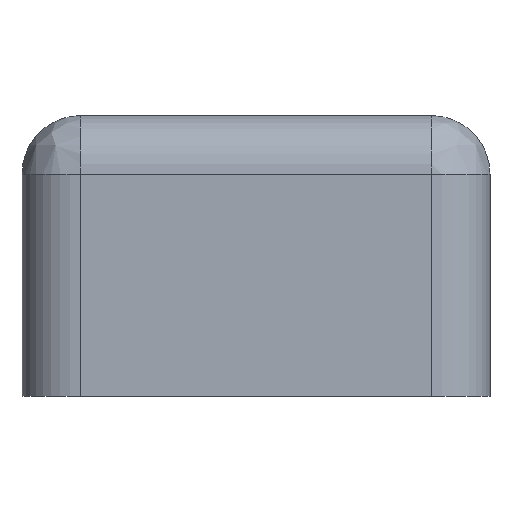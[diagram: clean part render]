
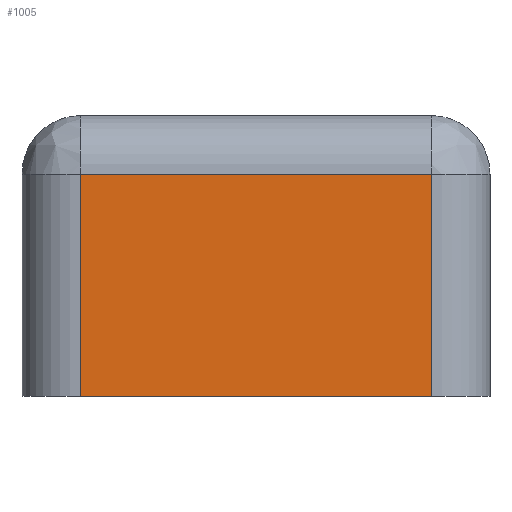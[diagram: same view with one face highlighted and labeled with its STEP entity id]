
A CAD part, front view. The second image highlights one B-rep face of the part: STEP entity #1005.
In plain terms, the highlighted planar face has unit normal (0, -1, 0).
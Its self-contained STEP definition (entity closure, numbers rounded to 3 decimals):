
#1 = ORIENTED_EDGE ( 'NONE', *, *, #65, .T. ) ;
#15 = EDGE_CURVE ( 'NONE', #908, #541, #278, .T. ) ;
#18 = VECTOR ( 'NONE', #538, 1000. ) ;
#52 = LINE ( 'NONE', #451, #1039 ) ;
#59 = EDGE_CURVE ( 'NONE', #984, #685, #514, .T. ) ;
#65 = EDGE_CURVE ( 'NONE', #984, #908, #52, .T. ) ;
#119 = CARTESIAN_POINT ( 'NONE',  ( -10., -20., -12. ) ) ;
#139 = ORIENTED_EDGE ( 'NONE', *, *, #940, .T. ) ;
#195 = VECTOR ( 'NONE', #446, 1000. ) ;
#200 = DIRECTION ( 'NONE',  ( 0., 0., -1. ) ) ;
#278 = LINE ( 'NONE', #1040, #912 ) ;
#332 = CARTESIAN_POINT ( 'NONE',  ( 7.5, -20., -12. ) ) ;
#345 = CARTESIAN_POINT ( 'NONE',  ( 0., -20., 0. ) ) ;
#446 = DIRECTION ( 'NONE',  ( 1., 0., 0. ) ) ;
#451 = CARTESIAN_POINT ( 'NONE',  ( 0., -20., -2.5 ) ) ;
#510 = PLANE ( 'NONE',  #762 ) ;
#514 = LINE ( 'NONE', #790, #18 ) ;
#515 = CARTESIAN_POINT ( 'NONE',  ( 7.5, -20., -2.5 ) ) ;
#525 = DIRECTION ( 'NONE',  ( -1., 0., 0. ) ) ;
#538 = DIRECTION ( 'NONE',  ( 0., 0., -1. ) ) ;
#541 = VERTEX_POINT ( 'NONE', #781 ) ;
#581 = ORIENTED_EDGE ( 'NONE', *, *, #59, .F. ) ;
#685 = VERTEX_POINT ( 'NONE', #332 ) ;
#762 = AXIS2_PLACEMENT_3D ( 'NONE', #345, #1029, #200 ) ;
#781 = CARTESIAN_POINT ( 'NONE',  ( -7.5, -20., -12. ) ) ;
#790 = CARTESIAN_POINT ( 'NONE',  ( 7.5, -20., 0. ) ) ;
#811 = CARTESIAN_POINT ( 'NONE',  ( -7.5, -20., -2.5 ) ) ;
#899 = EDGE_LOOP ( 'NONE', ( #1, #966, #139, #581 ) ) ;
#908 = VERTEX_POINT ( 'NONE', #811 ) ;
#912 = VECTOR ( 'NONE', #925, 1000. ) ;
#921 = LINE ( 'NONE', #119, #195 ) ;
#925 = DIRECTION ( 'NONE',  ( 0., 0., -1. ) ) ;
#926 = FACE_OUTER_BOUND ( 'NONE', #899, .T. ) ;
#940 = EDGE_CURVE ( 'NONE', #541, #685, #921, .T. ) ;
#966 = ORIENTED_EDGE ( 'NONE', *, *, #15, .T. ) ;
#984 = VERTEX_POINT ( 'NONE', #515 ) ;
#1005 = ADVANCED_FACE ( 'NONE', ( #926 ), #510, .T. ) ;
#1029 = DIRECTION ( 'NONE',  ( 0., -1., 0. ) ) ;
#1039 = VECTOR ( 'NONE', #525, 1000. ) ;
#1040 = CARTESIAN_POINT ( 'NONE',  ( -7.5, -20., 0. ) ) ;
